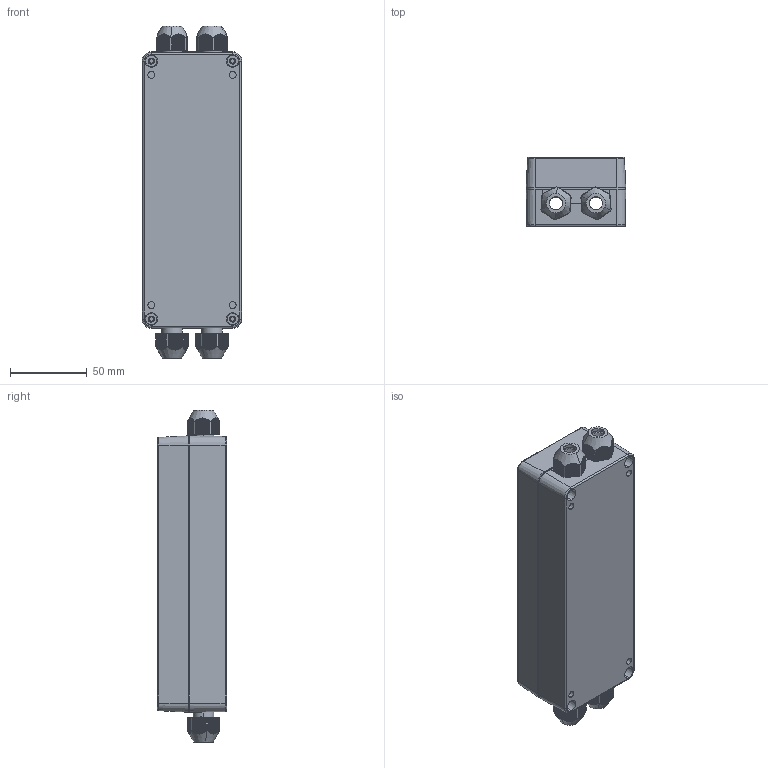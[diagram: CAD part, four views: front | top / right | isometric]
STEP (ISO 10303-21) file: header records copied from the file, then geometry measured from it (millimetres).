
FILE_DESCRIPTION (( 'STEP AP203' ), '1' );
FILE_NAME ('PB1865.STEP', '2018-12-18T05:37:36', ( '' ), ( '' ), 'SwSTEP 2.0', 'SolidWorks 2018', '' );
FILE_SCHEMA (( 'CONFIG_CONTROL_DESIGN' ));
Length unit declared in the file: millimetre
Products named in the file (5): PB1865
Assembly tree (10 placements, depth 2):
  PB1865
    PB1865
    PB1865
    PB1865  x4
    PB1865  x4
Bounding box: 65 x 45 x 216.21 mm (x, y, z)
Volume: 149232.6 mm3; surface area: 115939.5 mm2
Topology: 10 solids, 10 shells, 2480 faces, 7070 edges, 4692 vertices
Faces by surface type: plane 1282, cylinder 816, bspline 192, cone 174, torus 16
Entity records: 68929 total; most frequent: CARTESIAN_POINT 42466, ORIENTED_EDGE 6148, DIRECTION 4365, EDGE_CURVE 3074, VERTEX_POINT 2034, AXIS2_PLACEMENT_3D 1482, LINE 1401, VECTOR 1401
